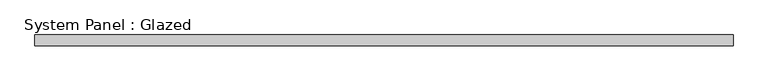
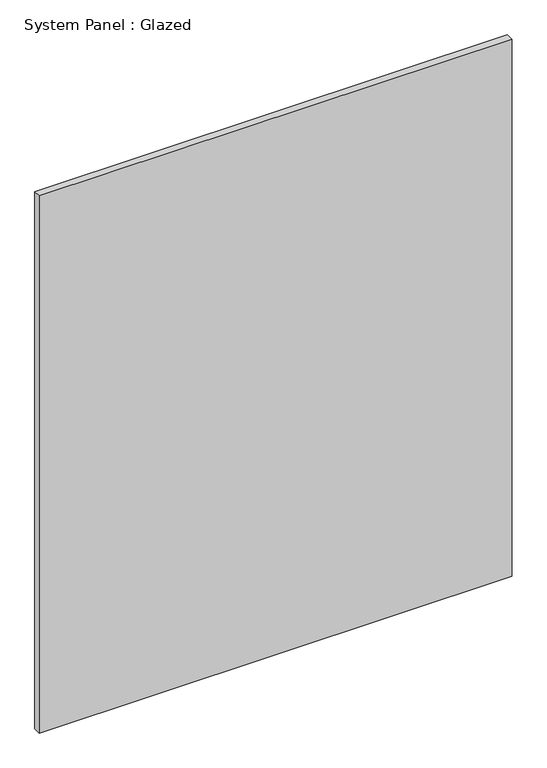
"""IFC4 building model written with IfcOpenShell, lengths in millimetres: plate geometry, System Panel : Glazed."""

from ifc_helpers import new_model, si_unit, origin, origin_with_axes, place, context, project, spatial, polyline, outline, extrude, source, transform, mapped, element, save


def system_panel_glazed_d335b26f(model_context):
    return source(origin(), model_context, "Body", "SweptSolid", [
        extrude(outline(polyline([(824.7959145, 19.05), (-824.7959145, 19.05), (-824.7959145, 44.45), (824.7959145, 44.45), (824.7959145, 19.05)])), origin_with_axes(), (0.0, 0.0, 1.0), 1981.2),
    ])


if __name__ == "__main__":
    model = new_model("IFC4")
    model_context = context("Model", 3, world=origin())
    ifc_project = project(units=[si_unit("LENGTHUNIT", "METRE", prefix="MILLI")], contexts=[model_context])
    site = spatial("IfcSite", under=ifc_project)
    building = spatial("IfcBuilding", under=site)
    placement = place(None, origin())
    system_panel_glazed_shape = system_panel_glazed_d335b26f(model_context)
    element("IfcPlate", 1, ObjectType="System Panel : Glazed", at=placement, inside=building, context=model_context, shape_type="MappedRepresentation", body=[
        mapped(system_panel_glazed_shape, transform((0.0, 0.0, 0.0), x_axis=(1.0, 0.0, 0.0), y_axis=(0.0, 1.0, 0.0), z_axis=(0.0, 0.0, 1.0))),
    ])
    save(model, "model.ifc")
